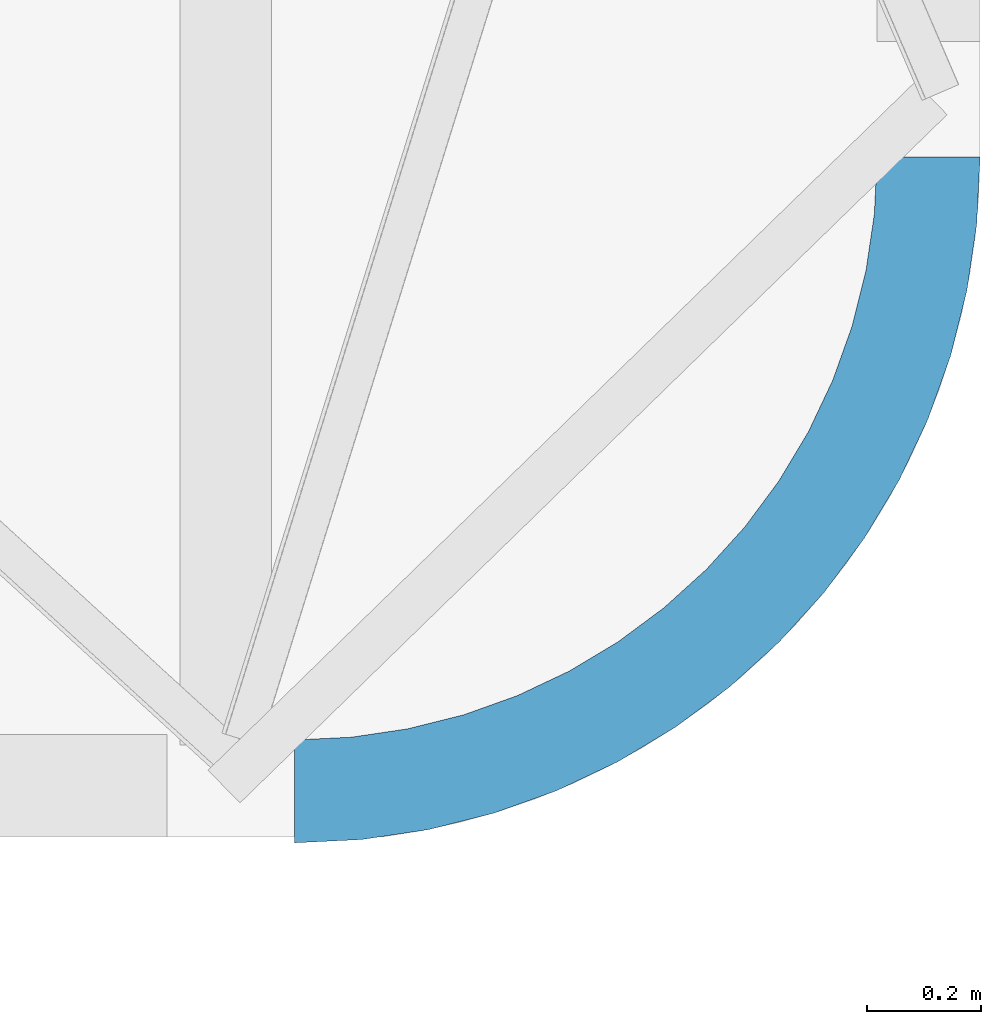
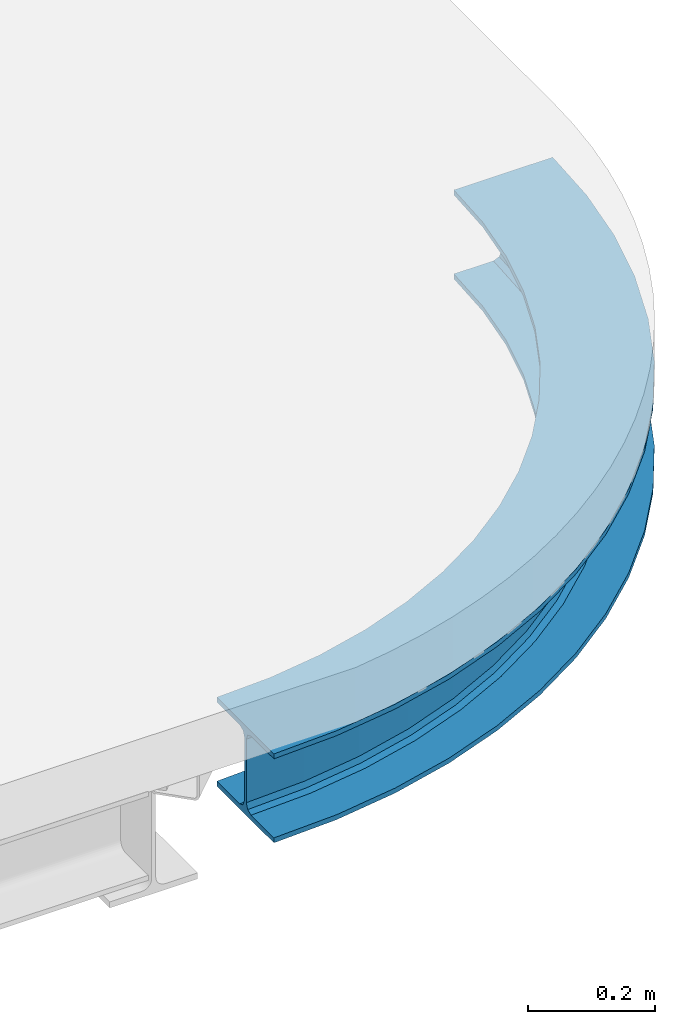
# One storey, part 12 of 14: 1 beam.
"""IFC2X3 building model written with IfcOpenShell, lengths in millimetres."""

from ifc_helpers import new_model, entity, si_unit, converted_unit, derived_unit, direction, frame, origin, place, context, subcontext, project, spatial, faceted_brep, material, type_object, element, save


model = new_model("IFC2X3")

# Units and contexts
model_context = context("Model", 3, precision=0.01, world=origin(), true_north=direction((6.123031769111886e-17, 1.0)))
body_context = subcontext(model_context, "Body", "Model", "MODEL_VIEW")
ifc_project = project(units=[si_unit("LENGTHUNIT", "METRE", prefix="MILLI"), si_unit("AREAUNIT", "SQUARE_METRE"), si_unit("VOLUMEUNIT", "CUBIC_METRE"), derived_unit("MASSDENSITYUNIT", [(si_unit("MASSUNIT", "GRAM", prefix="KILO"), 1), (si_unit("LENGTHUNIT", "METRE"), -3)]), si_unit("MASSUNIT", "GRAM", prefix="KILO"), converted_unit("PLANEANGLEUNIT", "DEGREE", entity("IfcPlaneAngleMeasure", 0.017453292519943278), si_unit("PLANEANGLEUNIT", "RADIAN"), dimensions=[0, 0, 0, 0, 0, 0, 0])], contexts=[model_context])

# Site, building, storey
site_placement = place(None, origin())
site = spatial("IfcSite", under=ifc_project, at=site_placement, Name="Default", CompositionType="ELEMENT")
building_placement = place(site_placement, origin())
building = spatial("IfcBuilding", under=site, at=building_placement, Name="AT constructie", CompositionType="ELEMENT")
storey_placement = place(building_placement, frame((0.0, 0.0, 12043.0)))
storey = spatial("IfcBuildingStorey", under=building, at=storey_placement, Name="03 derde verdieping", CompositionType="ELEMENT", Elevation=12043.0)

# Beam
ifc_material = material(Name="h2_staal_S355")
beam_type = type_object("IfcBeamType", Name="balk HE_gen_HEA180", PredefinedType="NOTDEFINED")
beam_placement = place(storey_placement, frame((99466.87463111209, 24351.043508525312, 0.0)))
element("IfcBeam", 1, at=beam_placement, inside=storey, type_object=beam_type, material=ifc_material, Name="NLRS_28_SF_LIB_balk HEA_gen_AT:balk HE_gen_HEA180", ObjectType="NLRS_28_SF_LIB_balk HEA_gen_AT:balk HE_gen_HEA180", context=body_context, shape_type="Brep", body=[
    faceted_brep([(117.62056839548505, -1194.2216720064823, 0.0), (99.97748313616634, -1015.088421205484, 0.0), (0.0, -1020.0, 0.0), (0.0, -1200.0, 0.0), (99.97748313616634, -1015.088421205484, -9.500000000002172), (0.0, -1020.0, -9.500000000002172), (107.03471723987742, -1086.7417215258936, -9.500000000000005), (0.0, -1092.0, -9.500000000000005), (108.0743460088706, -1097.2972495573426, -13.893398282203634), (0.0, -1102.6066017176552, -13.893398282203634), (108.50497434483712, -1101.669492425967, -24.500000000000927), (0.0, -1107.0, -24.500000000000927), (108.50497434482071, -1101.6694924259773, -146.50000000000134), (0.0, -1107.0, -146.50000000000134), (108.0743460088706, -1097.2972495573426, -157.10660171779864), (0.0, -1102.6066017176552, -157.10660171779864), (107.03471723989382, -1086.7417215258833, -161.50000000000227), (0.0, -1092.0, -161.50000000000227), (99.97748313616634, -1015.088421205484, -161.50000000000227), (0.0, -1020.0, -161.50000000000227), (99.97748313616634, -1015.088421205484, -171.0), (0.0, -1020.0, -171.0), (117.62056839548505, -1194.2216720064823, -171.0), (0.0, -1200.0, -171.0), (117.62056839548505, -1194.2216720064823, -161.50000000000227), (0.0, -1200.0, -161.50000000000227), (110.56333429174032, -1122.5683716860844, -161.50000000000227), (0.0, -1128.0, -161.50000000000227), (109.52370552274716, -1112.0128436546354, -157.10660171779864), (0.0, -1117.393398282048, -157.10660171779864), (109.09307718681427, -1107.640600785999, -146.50000000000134), (0.0, -1113.0, -146.50000000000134), (109.09307718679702, -1107.6406007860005, -24.500000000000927), (0.0, -1113.0, -24.500000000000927), (109.52370552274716, -1112.0128436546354, -13.893398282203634), (0.0, -1117.393398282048, -13.893398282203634), (110.56333429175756, -1122.5683716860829, -9.500000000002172), (0.0, -1128.0, -9.500000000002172), (117.62056839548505, -1194.2216720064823, -9.500000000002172), (0.0, -1200.0, -9.500000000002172), (234.10838641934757, -1176.9423364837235, 0.0), (198.9921284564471, -1000.4009860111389, 0.0), (198.9921284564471, -1000.4009860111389, -9.500000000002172), (213.03863164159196, -1071.0175262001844, -9.500000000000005), (215.1078769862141, -1081.4203250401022, -13.893398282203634), (215.9649864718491, -1085.729305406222, -24.500000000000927), (215.96498647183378, -1085.729305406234, -146.50000000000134), (215.1078769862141, -1081.4203250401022, -157.10660171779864), (213.03863164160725, -1071.0175262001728, -161.50000000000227), (198.9921284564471, -1000.4009860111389, -161.50000000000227), (198.9921284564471, -1000.4009860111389, -171.0), (234.10838641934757, -1176.9423364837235, -171.0), (234.10838641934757, -1176.9423364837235, -161.50000000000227), (220.06188323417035, -1106.325796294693, -161.50000000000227), (217.99263788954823, -1095.9229974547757, -157.10660171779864), (217.1355284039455, -1091.6140170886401, -146.50000000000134), (217.1355284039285, -1091.6140170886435, -24.500000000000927), (217.99263788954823, -1095.9229974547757, -13.893398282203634), (220.06188323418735, -1106.3257962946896, -9.500000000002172), (234.10838641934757, -1176.9423364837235, -9.500000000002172), (348.3416127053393, -1148.328402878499, 0.0), (296.0903707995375, -976.0791424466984, 0.0), (296.0903707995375, -976.0791424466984, -9.500000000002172), (316.9908675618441, -1044.9788466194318, -9.500000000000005), (320.069801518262, -1055.1287316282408, -13.893398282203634), (321.3451377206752, -1059.3329516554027, -24.500000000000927), (321.3451377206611, -1059.3329516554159, -146.50000000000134), (320.069801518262, -1055.1287316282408, -157.10660171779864), (316.9908675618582, -1044.9788466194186, -161.50000000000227), (296.0903707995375, -976.0791424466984, -161.50000000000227), (296.0903707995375, -976.0791424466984, -171.0), (348.3416127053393, -1148.328402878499, -171.0), (348.3416127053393, -1148.328402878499, -161.50000000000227), (327.44111594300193, -1079.4286987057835, -161.50000000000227), (324.36218198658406, -1069.2788136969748, -157.10660171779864), (323.0868457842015, -1065.0745936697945, -146.50000000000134), (323.0868457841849, -1065.0745936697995, -24.500000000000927), (324.36218198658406, -1069.2788136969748, -13.893398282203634), (327.44111594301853, -1079.4286987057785, -9.500000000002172), (348.3416127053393, -1148.328402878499, -9.500000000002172), (459.2201188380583, -1108.655439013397, 0.0), (390.33710101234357, -942.3571231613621, 0.0), (390.33710101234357, -942.3571231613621, -9.500000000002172), (417.8903081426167, -1008.8764495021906, -9.500000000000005), (421.94927889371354, -1018.6756717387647, -13.893398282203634), (423.6305596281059, -1022.734642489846, -24.500000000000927), (423.6305596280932, -1022.7346424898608, -146.50000000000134), (421.94927889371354, -1018.6756717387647, -157.10660171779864), (417.8903081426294, -1008.8764495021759, -161.50000000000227), (390.33710101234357, -942.3571231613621, -161.50000000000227), (390.33710101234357, -942.3571231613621, -171.0), (459.2201188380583, -1108.655439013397, -171.0), (459.2201188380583, -1108.655439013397, -161.50000000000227), (431.6669117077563, -1042.1361126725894, -161.50000000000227), (427.60794095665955, -1032.3368904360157, -157.10660171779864), (425.9266602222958, -1028.2779196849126, -146.50000000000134), (425.92666022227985, -1028.2779196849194, -24.500000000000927), (427.60794095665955, -1032.3368904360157, -13.893398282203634), (431.66691170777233, -1042.1361126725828, -9.500000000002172), (459.2201188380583, -1108.655439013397, -9.500000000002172), (565.6760841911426, -1058.305517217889, 0.0), (480.8246715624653, -899.5596896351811, 0.0), (480.8246715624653, -899.5596896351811, -9.500000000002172), (514.765236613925, -963.05802066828, -9.500000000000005), (519.7651540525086, -972.4122082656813, -13.893398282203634), (521.8361876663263, -976.2868396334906, -24.500000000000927), (521.8361876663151, -976.2868396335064, -146.50000000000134), (519.7651540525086, -972.4122082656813, -157.10660171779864), (514.7652366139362, -963.0580206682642, -161.50000000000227), (480.8246715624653, -899.5596896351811, -161.50000000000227), (480.8246715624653, -899.5596896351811, -171.0), (565.6760841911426, -1058.305517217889, -171.0), (565.6760841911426, -1058.305517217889, -161.50000000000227), (531.7355191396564, -994.8071861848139, -161.50000000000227), (526.735601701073, -985.4529985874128, -157.10660171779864), (524.6645680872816, -981.5783672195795, -146.50000000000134), (524.6645680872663, -981.5783672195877, -24.500000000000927), (526.735601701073, -985.4529985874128, -13.893398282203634), (531.7355191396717, -994.8071861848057, -9.500000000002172), (565.6760841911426, -1058.305517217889, -9.500000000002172), (666.6842796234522, -997.7635347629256, 0.0), (566.681637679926, -848.0990045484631, 0.0), (566.681637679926, -848.0990045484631, -9.500000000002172), (606.6826944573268, -907.9648166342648, -9.500000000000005), (612.5754066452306, -916.7838836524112, -13.893398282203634), (615.0162479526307, -920.4368608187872, -24.500000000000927), (615.016247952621, -920.4368608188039, -146.50000000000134), (612.5754066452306, -916.7838836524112, -157.10660171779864), (606.6826944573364, -907.964816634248, -161.50000000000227), (566.681637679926, -848.0990045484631, -161.50000000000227), (566.681637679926, -848.0990045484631, -171.0), (666.6842796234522, -997.7635347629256, -171.0), (666.6842796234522, -997.7635347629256, -161.50000000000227), (626.6832228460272, -937.8977226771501, -161.50000000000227), (620.7905106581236, -929.0786556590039, -157.10660171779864), (618.3496693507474, -925.4256784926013, -146.50000000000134), (618.349669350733, -925.4256784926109, -24.500000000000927), (620.7905106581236, -929.0786556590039, -13.893398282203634), (626.6832228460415, -937.8977226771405, -9.500000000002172), (666.6842796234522, -997.7635347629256, -9.500000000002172), (761.2719409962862, -927.6125440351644, 0.0), (647.0811498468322, -788.4706624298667, 0.0), (647.0811498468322, -788.4706624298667, -9.500000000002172), (692.7574663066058, -844.1274150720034, -9.500000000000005), (699.4862232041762, -852.3264290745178, -13.893398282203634), (702.2733655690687, -855.7225718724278, -24.500000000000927), (702.2733655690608, -855.7225718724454, -146.50000000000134), (699.4862232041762, -852.3264290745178, -157.10660171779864), (692.7574663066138, -844.1274150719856, -161.50000000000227), (647.0811498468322, -788.4706624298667, -161.50000000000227), (647.0811498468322, -788.4706624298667, -171.0), (761.2719409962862, -927.6125440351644, -171.0), (761.2719409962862, -927.6125440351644, -161.50000000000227), (715.5956245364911, -871.9557913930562, -161.50000000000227), (708.8668676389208, -863.756777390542, -157.10660171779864), (706.0797252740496, -860.3606345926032, -146.50000000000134), (706.0797252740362, -860.3606345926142, -24.500000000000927), (708.8668676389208, -863.756777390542, -13.893398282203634), (715.5956245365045, -871.9557913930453, -9.500000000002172), (761.2719409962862, -927.6125440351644, -9.500000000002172), (848.52813742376, -848.5281374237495, 0.0), (721.2489168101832, -721.2489168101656, 0.0), (721.2489168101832, -721.2489168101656, -9.500000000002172), (772.1606050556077, -772.1606050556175, -9.500000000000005), (779.6606050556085, -779.6606050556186, -13.893398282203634), (782.7672067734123, -782.7672067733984, -24.500000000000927), (782.7672067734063, -782.7672067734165, -146.50000000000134), (779.6606050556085, -779.6606050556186, -157.10660171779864), (772.1606050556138, -772.1606050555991, -161.50000000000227), (721.2489168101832, -721.2489168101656, -161.50000000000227), (721.2489168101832, -721.2489168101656, -171.0), (848.52813742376, -848.5281374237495, -171.0), (848.52813742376, -848.5281374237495, -161.50000000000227), (797.6164491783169, -797.6164491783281, -161.50000000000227), (790.1164491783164, -790.1164491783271, -157.10660171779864), (787.0098474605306, -787.0098474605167, -146.50000000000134), (787.0098474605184, -787.0098474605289, -24.500000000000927), (790.1164491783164, -790.1164491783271, -13.893398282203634), (797.6164491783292, -797.6164491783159, -9.500000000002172), (848.52813742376, -848.5281374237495, -9.500000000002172), (927.6125440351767, -761.2719409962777, 0.0), (788.4706624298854, -647.0811498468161, 0.0), (788.4706624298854, -647.0811498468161, -9.500000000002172), (844.1274150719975, -692.7574663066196, -9.500000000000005), (852.3264290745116, -699.4862232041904, -13.893398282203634), (855.7225718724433, -702.2733655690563, -24.500000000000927), (855.7225718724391, -702.273365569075, -146.50000000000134), (852.3264290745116, -699.4862232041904, -157.10660171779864), (844.1274150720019, -692.7574663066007, -161.50000000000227), (788.4706624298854, -647.0811498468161, -161.50000000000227), (788.4706624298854, -647.0811498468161, -171.0), (927.6125440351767, -761.2719409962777, -171.0), (927.6125440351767, -761.2719409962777, -161.50000000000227), (871.9557913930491, -715.5956245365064, -161.50000000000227), (863.7567773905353, -708.8668676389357, -157.10660171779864), (860.3606345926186, -706.0797252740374, -146.50000000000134), (860.3606345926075, -706.0797252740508, -24.500000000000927), (863.7567773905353, -708.8668676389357, -13.893398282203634), (871.95579139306, -715.595624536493, -9.500000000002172), (927.6125440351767, -761.2719409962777, -9.500000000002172), (997.7635347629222, -666.6842796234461, 0.0), (848.0990045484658, -566.6816376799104, 0.0), (848.0990045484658, -566.6816376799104, -9.500000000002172), (907.9648166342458, -606.6826944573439, -9.500000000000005), (916.7838836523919, -612.5754066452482, -13.893398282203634), (920.4368608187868, -615.0162479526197, -24.500000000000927), (920.4368608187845, -615.016247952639, -146.50000000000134), (916.7838836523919, -612.5754066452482, -157.10660171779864), (907.9648166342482, -606.6826944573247, -161.50000000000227), (848.0990045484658, -566.6816376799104, -161.50000000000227), (848.0990045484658, -566.6816376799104, -171.0), (997.7635347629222, -666.6842796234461, -171.0), (997.7635347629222, -666.6842796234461, -161.50000000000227), (937.8977226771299, -626.6832228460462, -161.50000000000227), (929.0786556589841, -620.790510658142, -157.10660171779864), (925.4256784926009, -618.3496693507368, -146.50000000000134), (925.4256784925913, -618.3496693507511, -24.500000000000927), (929.0786556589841, -620.790510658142, -13.893398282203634), (937.8977226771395, -626.6832228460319, -9.500000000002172), (997.7635347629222, -666.6842796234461, -9.500000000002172), (1058.3055172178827, -565.6760841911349, 0.0), (899.5596896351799, -480.82467156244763, 0.0), (899.5596896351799, -480.82467156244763, -9.500000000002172), (963.0580206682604, -514.7652366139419, -9.500000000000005), (972.4122082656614, -519.7651540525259, -13.893398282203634), (976.2868396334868, -521.8361876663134, -24.500000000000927), (976.2868396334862, -521.8361876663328, -146.50000000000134), (972.4122082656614, -519.7651540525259, -157.10660171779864), (963.058020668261, -514.7652366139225, -161.50000000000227), (899.5596896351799, -480.82467156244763, -161.50000000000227), (899.5596896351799, -480.82467156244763, -171.0), (1058.3055172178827, -565.6760841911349, -171.0), (1058.3055172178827, -565.6760841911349, -161.50000000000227), (994.8071861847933, -531.7355191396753, -161.50000000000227), (985.4529985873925, -526.7356017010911, -157.10660171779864), (981.5783672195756, -524.6645680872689, -146.50000000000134), (981.5783672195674, -524.6645680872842, -24.500000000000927), (985.4529985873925, -526.7356017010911, -13.893398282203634), (994.8071861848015, -531.7355191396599, -9.500000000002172), (1058.3055172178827, -565.6760841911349, -9.500000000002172), (1108.6554390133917, -459.2201188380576, 0.0), (942.3571231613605, -390.3371010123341, 0.0), (942.3571231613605, -390.3371010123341, -9.500000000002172), (1008.8764495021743, -417.89030814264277, -9.500000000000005), (1018.6756717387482, -421.94927889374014, -13.893398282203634), (1022.7346424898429, -423.6305596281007, -24.500000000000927), (1022.7346424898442, -423.63055962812, -146.50000000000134), (1018.6756717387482, -421.94927889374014, -157.10660171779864), (1008.8764495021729, -417.89030814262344, -161.50000000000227), (942.3571231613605, -390.3371010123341, -161.50000000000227), (942.3571231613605, -390.3371010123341, -171.0), (1108.6554390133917, -459.2201188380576, -171.0), (1108.6554390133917, -459.2201188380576, -161.50000000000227), (1042.1361126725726, -431.6669117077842, -161.50000000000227), (1032.3368904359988, -427.6079409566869, -157.10660171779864), (1028.2779196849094, -425.92666022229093, -146.50000000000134), (1028.2779196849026, -425.9266602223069, -24.500000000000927), (1032.3368904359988, -427.6079409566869, -13.893398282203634), (1042.1361126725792, -431.6669117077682, -9.500000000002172), (1108.6554390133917, -459.2201188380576, -9.500000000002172), (1148.328402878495, -348.3416127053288, 0.0), (976.0791424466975, -296.0903707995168, 0.0), (976.0791424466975, -296.0903707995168, -9.500000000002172), (1044.9788466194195, -316.9908675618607, -9.500000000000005), (1055.1287316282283, -320.06980151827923, -13.893398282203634), (1059.3329516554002, -321.34513772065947, -24.500000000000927), (1059.3329516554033, -321.34513772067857, -146.50000000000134), (1055.1287316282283, -320.06980151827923, -157.10660171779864), (1044.9788466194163, -316.9908675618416, -161.50000000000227), (976.0791424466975, -296.0903707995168, -161.50000000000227), (976.0791424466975, -296.0903707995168, -171.0), (1148.328402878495, -348.3416127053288, -171.0), (1148.328402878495, -348.3416127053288, -161.50000000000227), (1079.4286987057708, -327.4411159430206, -161.50000000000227), (1069.2788136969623, -324.3621819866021, -157.10660171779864), (1065.074593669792, -323.0868457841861, -146.50000000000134), (1065.074593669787, -323.0868457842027, -24.500000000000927), (1069.2788136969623, -324.3621819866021, -13.893398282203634), (1079.4286987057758, -327.441115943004, -9.500000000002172), (1148.328402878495, -348.3416127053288, -9.500000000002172), (1176.9423364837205, -234.10838641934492, 0.0), (1000.4009860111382, -198.99212845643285, 0.0), (1000.4009860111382, -198.99212845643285, -9.500000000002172), (1071.0175262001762, -213.03863164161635, -9.500000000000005), (1081.4203250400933, -215.10787698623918, -13.893398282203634), (1085.7293054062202, -215.9649864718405, -24.500000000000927), (1085.7293054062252, -215.96498647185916, -146.50000000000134), (1081.4203250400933, -215.10787698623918, -157.10660171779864), (1071.017526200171, -213.03863164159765, -161.50000000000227), (1000.4009860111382, -198.99212845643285, -161.50000000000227), (1000.4009860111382, -198.99212845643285, -171.0), (1176.9423364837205, -234.10838641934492, -171.0), (1176.9423364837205, -234.10838641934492, -161.50000000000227), (1106.325796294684, -220.06188323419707, -161.50000000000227), (1095.922997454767, -217.9926378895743, -157.10660171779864), (1091.6140170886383, -217.13552840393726, -146.50000000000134), (1091.614017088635, -217.13552840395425, -24.500000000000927), (1095.922997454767, -217.9926378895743, -13.893398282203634), (1106.3257962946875, -220.06188323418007, -9.500000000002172), (1176.9423364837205, -234.10838641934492, -9.500000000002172), (1194.2216720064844, -117.62056839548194, 0.0), (1015.0884212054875, -99.97748313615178, 0.0), (1015.0884212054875, -99.97748313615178, -9.500000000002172), (1086.7417215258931, -107.03471723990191, -9.500000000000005), (1097.2972495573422, -108.07434600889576, -13.893398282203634), (1101.66949242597, -108.50497434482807, -24.500000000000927), (1101.6694924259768, -108.50497434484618, -146.50000000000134), (1097.2972495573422, -108.07434600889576, -157.10660171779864), (1086.741721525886, -107.03471723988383, -161.50000000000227), (1015.0884212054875, -99.97748313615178, -161.50000000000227), (1015.0884212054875, -99.97748313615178, -171.0), (1194.2216720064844, -117.62056839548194, -171.0), (1194.2216720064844, -117.62056839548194, -161.50000000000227), (1122.568371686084, -110.56333429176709, -161.50000000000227), (1112.012843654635, -109.52370552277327, -157.10660171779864), (1107.6406007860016, -109.0930771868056, -146.50000000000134), (1107.640600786, -109.09307718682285, -24.500000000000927), (1112.012843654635, -109.52370552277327, -13.893398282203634), (1122.5683716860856, -110.56333429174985, -9.500000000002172), (1194.2216720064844, -117.62056839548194, -9.500000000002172), (1200.0, 0.0, 0.0), (1020.0, 0.0, 0.0), (1020.0, 0.0, -9.500000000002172), (1092.0, 0.0, -9.500000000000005), (1102.606601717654, 0.0, -13.893398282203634), (1107.0, 0.0, -24.500000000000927), (1107.0, 0.0, -146.50000000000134), (1102.606601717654, 0.0, -157.10660171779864), (1092.0, 0.0, -161.50000000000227), (1020.0, 0.0, -161.50000000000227), (1020.0, 0.0, -171.0), (1200.0, 0.0, -171.0), (1200.0, 0.0, -161.50000000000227), (1128.0, 0.0, -161.50000000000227), (1117.393398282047, 0.0, -157.10660171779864), (1113.0, 0.0, -146.50000000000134), (1113.0, 0.0, -24.500000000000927), (1117.393398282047, 0.0, -13.893398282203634), (1128.0, 0.0, -9.500000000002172), (1200.0, 0.0, -9.500000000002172)], [[[0, 1, 2, 3]], [[1, 4, 5, 2]], [[4, 6, 7, 5]], [[6, 8, 9, 7]], [[8, 10, 11, 9]], [[10, 12, 13, 11]], [[12, 14, 15, 13]], [[14, 16, 17, 15]], [[16, 18, 19, 17]], [[18, 20, 21, 19]], [[20, 22, 23, 21]], [[22, 24, 25, 23]], [[24, 26, 27, 25]], [[26, 28, 29, 27]], [[28, 30, 31, 29]], [[30, 32, 33, 31]], [[32, 34, 35, 33]], [[34, 36, 37, 35]], [[36, 38, 39, 37]], [[38, 0, 3, 39]], [[40, 41, 1, 0]], [[41, 42, 4, 1]], [[42, 43, 6, 4]], [[43, 44, 8, 6]], [[44, 45, 10, 8]], [[45, 46, 12, 10]], [[46, 47, 14, 12]], [[47, 48, 16, 14]], [[48, 49, 18, 16]], [[49, 50, 20, 18]], [[50, 51, 22, 20]], [[51, 52, 24, 22]], [[52, 53, 26, 24]], [[53, 54, 28, 26]], [[54, 55, 30, 28]], [[55, 56, 32, 30]], [[56, 57, 34, 32]], [[57, 58, 36, 34]], [[58, 59, 38, 36]], [[59, 40, 0, 38]], [[60, 61, 41, 40]], [[61, 62, 42, 41]], [[62, 63, 43, 42]], [[63, 64, 44, 43]], [[64, 65, 45, 44]], [[65, 66, 46, 45]], [[66, 67, 47, 46]], [[67, 68, 48, 47]], [[68, 69, 49, 48]], [[69, 70, 50, 49]], [[70, 71, 51, 50]], [[71, 72, 52, 51]], [[72, 73, 53, 52]], [[73, 74, 54, 53]], [[74, 75, 55, 54]], [[75, 76, 56, 55]], [[76, 77, 57, 56]], [[77, 78, 58, 57]], [[78, 79, 59, 58]], [[79, 60, 40, 59]], [[80, 81, 61, 60]], [[81, 82, 62, 61]], [[82, 83, 63, 62]], [[83, 84, 64, 63]], [[84, 85, 65, 64]], [[85, 86, 66, 65]], [[86, 87, 67, 66]], [[87, 88, 68, 67]], [[88, 89, 69, 68]], [[89, 90, 70, 69]], [[90, 91, 71, 70]], [[91, 92, 72, 71]], [[92, 93, 73, 72]], [[93, 94, 74, 73]], [[94, 95, 75, 74]], [[95, 96, 76, 75]], [[96, 97, 77, 76]], [[97, 98, 78, 77]], [[98, 99, 79, 78]], [[99, 80, 60, 79]], [[100, 101, 81, 80]], [[101, 102, 82, 81]], [[102, 103, 83, 82]], [[103, 104, 84, 83]], [[104, 105, 85, 84]], [[105, 106, 86, 85]], [[106, 107, 87, 86]], [[107, 108, 88, 87]], [[108, 109, 89, 88]], [[109, 110, 90, 89]], [[110, 111, 91, 90]], [[111, 112, 92, 91]], [[112, 113, 93, 92]], [[113, 114, 94, 93]], [[114, 115, 95, 94]], [[115, 116, 96, 95]], [[116, 117, 97, 96]], [[117, 118, 98, 97]], [[118, 119, 99, 98]], [[119, 100, 80, 99]], [[120, 121, 101, 100]], [[121, 122, 102, 101]], [[122, 123, 103, 102]], [[123, 124, 104, 103]], [[124, 125, 105, 104]], [[125, 126, 106, 105]], [[126, 127, 107, 106]], [[127, 128, 108, 107]], [[128, 129, 109, 108]], [[129, 130, 110, 109]], [[130, 131, 111, 110]], [[131, 132, 112, 111]], [[132, 133, 113, 112]], [[133, 134, 114, 113]], [[134, 135, 115, 114]], [[135, 136, 116, 115]], [[136, 137, 117, 116]], [[137, 138, 118, 117]], [[138, 139, 119, 118]], [[139, 120, 100, 119]], [[140, 141, 121, 120]], [[141, 142, 122, 121]], [[142, 143, 123, 122]], [[143, 144, 124, 123]], [[144, 145, 125, 124]], [[145, 146, 126, 125]], [[146, 147, 127, 126]], [[147, 148, 128, 127]], [[148, 149, 129, 128]], [[149, 150, 130, 129]], [[150, 151, 131, 130]], [[151, 152, 132, 131]], [[152, 153, 133, 132]], [[153, 154, 134, 133]], [[154, 155, 135, 134]], [[155, 156, 136, 135]], [[156, 157, 137, 136]], [[157, 158, 138, 137]], [[158, 159, 139, 138]], [[159, 140, 120, 139]], [[160, 161, 141, 140]], [[161, 162, 142, 141]], [[162, 163, 143, 142]], [[163, 164, 144, 143]], [[164, 165, 145, 144]], [[165, 166, 146, 145]], [[166, 167, 147, 146]], [[167, 168, 148, 147]], [[168, 169, 149, 148]], [[169, 170, 150, 149]], [[170, 171, 151, 150]], [[171, 172, 152, 151]], [[172, 173, 153, 152]], [[173, 174, 154, 153]], [[174, 175, 155, 154]], [[175, 176, 156, 155]], [[176, 177, 157, 156]], [[177, 178, 158, 157]], [[178, 179, 159, 158]], [[179, 160, 140, 159]], [[180, 181, 161, 160]], [[181, 182, 162, 161]], [[182, 183, 163, 162]], [[183, 184, 164, 163]], [[184, 185, 165, 164]], [[185, 186, 166, 165]], [[186, 187, 167, 166]], [[187, 188, 168, 167]], [[188, 189, 169, 168]], [[189, 190, 170, 169]], [[190, 191, 171, 170]], [[191, 192, 172, 171]], [[192, 193, 173, 172]], [[193, 194, 174, 173]], [[194, 195, 175, 174]], [[195, 196, 176, 175]], [[196, 197, 177, 176]], [[197, 198, 178, 177]], [[198, 199, 179, 178]], [[199, 180, 160, 179]], [[200, 201, 181, 180]], [[201, 202, 182, 181]], [[202, 203, 183, 182]], [[203, 204, 184, 183]], [[204, 205, 185, 184]], [[205, 206, 186, 185]], [[206, 207, 187, 186]], [[207, 208, 188, 187]], [[208, 209, 189, 188]], [[209, 210, 190, 189]], [[210, 211, 191, 190]], [[211, 212, 192, 191]], [[212, 213, 193, 192]], [[213, 214, 194, 193]], [[214, 215, 195, 194]], [[215, 216, 196, 195]], [[216, 217, 197, 196]], [[217, 218, 198, 197]], [[218, 219, 199, 198]], [[219, 200, 180, 199]], [[220, 221, 201, 200]], [[221, 222, 202, 201]], [[222, 223, 203, 202]], [[223, 224, 204, 203]], [[224, 225, 205, 204]], [[225, 226, 206, 205]], [[226, 227, 207, 206]], [[227, 228, 208, 207]], [[228, 229, 209, 208]], [[229, 230, 210, 209]], [[230, 231, 211, 210]], [[231, 232, 212, 211]], [[232, 233, 213, 212]], [[233, 234, 214, 213]], [[234, 235, 215, 214]], [[235, 236, 216, 215]], [[236, 237, 217, 216]], [[237, 238, 218, 217]], [[238, 239, 219, 218]], [[239, 220, 200, 219]], [[240, 241, 221, 220]], [[241, 242, 222, 221]], [[242, 243, 223, 222]], [[243, 244, 224, 223]], [[244, 245, 225, 224]], [[245, 246, 226, 225]], [[246, 247, 227, 226]], [[247, 248, 228, 227]], [[248, 249, 229, 228]], [[249, 250, 230, 229]], [[250, 251, 231, 230]], [[251, 252, 232, 231]], [[252, 253, 233, 232]], [[253, 254, 234, 233]], [[254, 255, 235, 234]], [[255, 256, 236, 235]], [[256, 257, 237, 236]], [[257, 258, 238, 237]], [[258, 259, 239, 238]], [[259, 240, 220, 239]], [[260, 261, 241, 240]], [[261, 262, 242, 241]], [[262, 263, 243, 242]], [[263, 264, 244, 243]], [[264, 265, 245, 244]], [[265, 266, 246, 245]], [[266, 267, 247, 246]], [[267, 268, 248, 247]], [[268, 269, 249, 248]], [[269, 270, 250, 249]], [[270, 271, 251, 250]], [[271, 272, 252, 251]], [[272, 273, 253, 252]], [[273, 274, 254, 253]], [[274, 275, 255, 254]], [[275, 276, 256, 255]], [[276, 277, 257, 256]], [[277, 278, 258, 257]], [[278, 279, 259, 258]], [[279, 260, 240, 259]], [[280, 281, 261, 260]], [[281, 282, 262, 261]], [[282, 283, 263, 262]], [[283, 284, 264, 263]], [[284, 285, 265, 264]], [[285, 286, 266, 265]], [[286, 287, 267, 266]], [[287, 288, 268, 267]], [[288, 289, 269, 268]], [[289, 290, 270, 269]], [[290, 291, 271, 270]], [[291, 292, 272, 271]], [[292, 293, 273, 272]], [[293, 294, 274, 273]], [[294, 295, 275, 274]], [[295, 296, 276, 275]], [[296, 297, 277, 276]], [[297, 298, 278, 277]], [[298, 299, 279, 278]], [[299, 280, 260, 279]], [[300, 301, 281, 280]], [[301, 302, 282, 281]], [[302, 303, 283, 282]], [[303, 304, 284, 283]], [[304, 305, 285, 284]], [[305, 306, 286, 285]], [[306, 307, 287, 286]], [[307, 308, 288, 287]], [[308, 309, 289, 288]], [[309, 310, 290, 289]], [[310, 311, 291, 290]], [[311, 312, 292, 291]], [[312, 313, 293, 292]], [[313, 314, 294, 293]], [[314, 315, 295, 294]], [[315, 316, 296, 295]], [[316, 317, 297, 296]], [[317, 318, 298, 297]], [[318, 319, 299, 298]], [[319, 300, 280, 299]], [[320, 321, 301, 300]], [[321, 322, 302, 301]], [[322, 323, 303, 302]], [[323, 324, 304, 303]], [[324, 325, 305, 304]], [[325, 326, 306, 305]], [[326, 327, 307, 306]], [[327, 328, 308, 307]], [[328, 329, 309, 308]], [[329, 330, 310, 309]], [[330, 331, 311, 310]], [[331, 332, 312, 311]], [[332, 333, 313, 312]], [[333, 334, 314, 313]], [[334, 335, 315, 314]], [[335, 336, 316, 315]], [[336, 337, 317, 316]], [[337, 338, 318, 317]], [[338, 339, 319, 318]], [[339, 320, 300, 319]], [[3, 2, 5, 7, 9, 11, 13, 15, 17, 19, 21, 23, 25, 27, 29, 31, 33, 35, 37, 39]], [[339, 338, 337, 336, 335, 334, 333, 332, 331, 330, 329, 328, 327, 326, 325, 324, 323, 322, 321, 320]]]),
])

save(model, "model.ifc")
